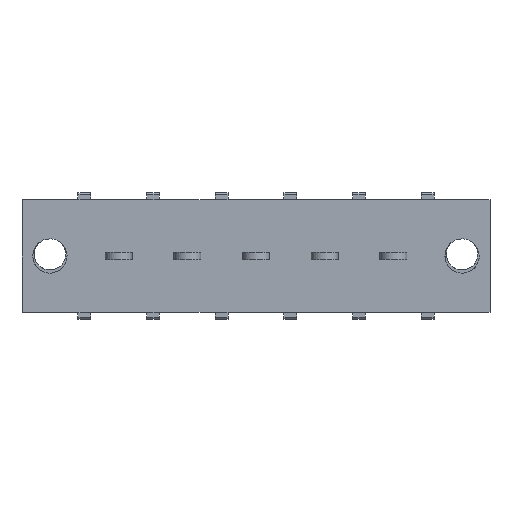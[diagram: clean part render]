
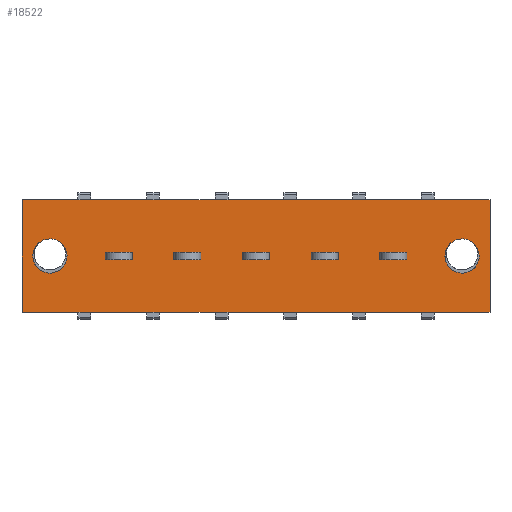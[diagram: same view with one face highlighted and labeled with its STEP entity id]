
A CAD part, front view. The second image highlights one B-rep face of the part: STEP entity #18522.
In plain terms, the highlighted planar face has unit normal (0, -1, 0).
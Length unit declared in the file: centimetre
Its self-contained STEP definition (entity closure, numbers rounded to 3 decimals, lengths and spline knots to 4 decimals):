
#807=PLANE('',#30235);
#1726=VECTOR('',#19942,1.);
#1921=VECTOR('',#20362,1.);
#1936=VECTOR('',#20381,1.);
#1950=VECTOR('',#20432,1.);
#1952=VECTOR('',#20435,1.);
#2001=VECTOR('',#20530,1.);
#2014=VECTOR('',#20546,1.);
#2015=VECTOR('',#20547,1.);
#2016=VECTOR('',#20548,1.);
#2017=VECTOR('',#20549,1.);
#2018=VECTOR('',#20550,1.);
#2019=VECTOR('',#20551,1.);
#2020=VECTOR('',#20552,1.);
#2021=VECTOR('',#20553,1.);
#2022=VECTOR('',#20554,1.);
#2023=VECTOR('',#20555,1.);
#2024=VECTOR('',#20556,1.);
#2025=VECTOR('',#20557,1.);
#2026=VECTOR('',#20558,1.);
#2027=VECTOR('',#20559,1.);
#2028=VECTOR('',#20560,1.);
#2029=VECTOR('',#20561,1.);
#2030=VECTOR('',#20562,1.);
#2031=VECTOR('',#20563,1.);
#3778=LINE('',#24699,#1726);
#3973=LINE('',#25314,#1921);
#3988=LINE('',#25347,#1936);
#4002=LINE('',#25396,#1950);
#4004=LINE('',#25400,#1952);
#4053=LINE('',#25521,#2001);
#4066=LINE('',#25548,#2014);
#4067=LINE('',#25551,#2015);
#4068=LINE('',#25553,#2016);
#4069=LINE('',#25555,#2017);
#4070=LINE('',#25556,#2018);
#4071=LINE('',#25559,#2019);
#4072=LINE('',#25561,#2020);
#4073=LINE('',#25563,#2021);
#4074=LINE('',#25564,#2022);
#4075=LINE('',#25567,#2023);
#4076=LINE('',#25569,#2024);
#4077=LINE('',#25571,#2025);
#4078=LINE('',#25572,#2026);
#4079=LINE('',#25575,#2027);
#4080=LINE('',#25577,#2028);
#4081=LINE('',#25579,#2029);
#4082=LINE('',#25580,#2030);
#4083=LINE('',#25582,#2031);
#5763=VERTEX_POINT('',#24698);
#5764=VERTEX_POINT('',#24700);
#5765=VERTEX_POINT('',#24704);
#5959=VERTEX_POINT('',#25315);
#5960=VERTEX_POINT('',#25316);
#5973=VERTEX_POINT('',#25348);
#5986=VERTEX_POINT('',#25397);
#6029=VERTEX_POINT('',#25522);
#6040=VERTEX_POINT('',#25547);
#6041=VERTEX_POINT('',#25549);
#6042=VERTEX_POINT('',#25550);
#6043=VERTEX_POINT('',#25552);
#6044=VERTEX_POINT('',#25554);
#6045=VERTEX_POINT('',#25557);
#6046=VERTEX_POINT('',#25558);
#6047=VERTEX_POINT('',#25560);
#6048=VERTEX_POINT('',#25562);
#6049=VERTEX_POINT('',#25565);
#6050=VERTEX_POINT('',#25566);
#6051=VERTEX_POINT('',#25568);
#6052=VERTEX_POINT('',#25570);
#6053=VERTEX_POINT('',#25573);
#6054=VERTEX_POINT('',#25574);
#6055=VERTEX_POINT('',#25576);
#6056=VERTEX_POINT('',#25578);
#6057=VERTEX_POINT('',#25581);
#7246=CIRCLE('',#30030,0.19);
#7320=CIRCLE('',#30236,0.19);
#8112=EDGE_CURVE('',#5764,#5763,#3778,.T.);
#8114=EDGE_CURVE('',#5765,#5765,#7246,.T.);
#8395=EDGE_CURVE('',#5959,#5960,#3973,.T.);
#8412=EDGE_CURVE('',#5973,#5959,#3988,.T.);
#8436=EDGE_CURVE('',#5986,#5973,#4002,.T.);
#8438=EDGE_CURVE('',#5960,#5986,#4004,.T.);
#8498=EDGE_CURVE('',#6029,#5763,#4053,.T.);
#8511=EDGE_CURVE('',#6040,#6040,#7320,.T.);
#8512=EDGE_CURVE('',#6041,#6042,#4066,.T.);
#8513=EDGE_CURVE('',#6042,#6043,#4067,.T.);
#8514=EDGE_CURVE('',#6043,#6044,#4068,.T.);
#8515=EDGE_CURVE('',#6044,#6041,#4069,.T.);
#8516=EDGE_CURVE('',#6045,#6046,#4070,.T.);
#8517=EDGE_CURVE('',#6046,#6047,#4071,.T.);
#8518=EDGE_CURVE('',#6047,#6048,#4072,.T.);
#8519=EDGE_CURVE('',#6048,#6045,#4073,.T.);
#8520=EDGE_CURVE('',#6049,#6050,#4074,.T.);
#8521=EDGE_CURVE('',#6050,#6051,#4075,.T.);
#8522=EDGE_CURVE('',#6051,#6052,#4076,.T.);
#8523=EDGE_CURVE('',#6052,#6049,#4077,.T.);
#8524=EDGE_CURVE('',#6053,#6054,#4078,.T.);
#8525=EDGE_CURVE('',#6054,#6055,#4079,.T.);
#8526=EDGE_CURVE('',#6055,#6056,#4080,.T.);
#8527=EDGE_CURVE('',#6056,#6053,#4081,.T.);
#8528=EDGE_CURVE('',#6057,#5764,#4082,.T.);
#8529=EDGE_CURVE('',#6057,#6029,#4083,.T.);
#12143=ORIENTED_EDGE('',*,*,#8114,.T.);
#12144=ORIENTED_EDGE('',*,*,#8511,.T.);
#12145=ORIENTED_EDGE('',*,*,#8412,.F.);
#12146=ORIENTED_EDGE('',*,*,#8436,.F.);
#12147=ORIENTED_EDGE('',*,*,#8438,.F.);
#12148=ORIENTED_EDGE('',*,*,#8395,.F.);
#12149=ORIENTED_EDGE('',*,*,#8512,.T.);
#12150=ORIENTED_EDGE('',*,*,#8513,.T.);
#12151=ORIENTED_EDGE('',*,*,#8514,.T.);
#12152=ORIENTED_EDGE('',*,*,#8515,.T.);
#12153=ORIENTED_EDGE('',*,*,#8516,.T.);
#12154=ORIENTED_EDGE('',*,*,#8517,.T.);
#12155=ORIENTED_EDGE('',*,*,#8518,.T.);
#12156=ORIENTED_EDGE('',*,*,#8519,.T.);
#12157=ORIENTED_EDGE('',*,*,#8520,.T.);
#12158=ORIENTED_EDGE('',*,*,#8521,.T.);
#12159=ORIENTED_EDGE('',*,*,#8522,.T.);
#12160=ORIENTED_EDGE('',*,*,#8523,.T.);
#12161=ORIENTED_EDGE('',*,*,#8524,.T.);
#12162=ORIENTED_EDGE('',*,*,#8525,.T.);
#12163=ORIENTED_EDGE('',*,*,#8526,.T.);
#12164=ORIENTED_EDGE('',*,*,#8527,.T.);
#12165=ORIENTED_EDGE('',*,*,#8528,.T.);
#12166=ORIENTED_EDGE('',*,*,#8112,.T.);
#12167=ORIENTED_EDGE('',*,*,#8498,.F.);
#12168=ORIENTED_EDGE('',*,*,#8529,.F.);
#16261=EDGE_LOOP('',(#12143));
#16262=EDGE_LOOP('',(#12144));
#16263=EDGE_LOOP('',(#12145,#12146,#12147,#12148));
#16264=EDGE_LOOP('',(#12149,#12150,#12151,#12152));
#16265=EDGE_LOOP('',(#12153,#12154,#12155,#12156));
#16266=EDGE_LOOP('',(#12157,#12158,#12159,#12160));
#16267=EDGE_LOOP('',(#12161,#12162,#12163,#12164));
#16268=EDGE_LOOP('',(#12165,#12166,#12167,#12168));
#17411=FACE_BOUND('',#16261,.T.);
#17412=FACE_BOUND('',#16262,.T.);
#17413=FACE_BOUND('',#16263,.T.);
#17414=FACE_BOUND('',#16264,.T.);
#17415=FACE_BOUND('',#16265,.T.);
#17416=FACE_BOUND('',#16266,.T.);
#17417=FACE_BOUND('',#16267,.T.);
#17418=FACE_BOUND('',#16268,.T.);
#18522=ADVANCED_FACE('',(#17411,#17412,#17413,#17414,#17415,#17416,#17417,
#17418),#807,.T.);
#19942=DIRECTION('',(0.,0.,1.));
#19946=DIRECTION('',(0.,1.,0.));
#19947=DIRECTION('',(0.19,0.,0.));
#20362=DIRECTION('',(0.,0.,1.));
#20381=DIRECTION('',(1.,0.,0.));
#20432=DIRECTION('',(0.,0.,-1.));
#20435=DIRECTION('',(-1.,0.,0.));
#20530=DIRECTION('',(1.,0.,0.));
#20543=DIRECTION('',(0.,-1.,0.));
#20544=DIRECTION('',(0.,1.,0.));
#20545=DIRECTION('',(0.19,0.,0.));
#20546=DIRECTION('',(-1.,0.,0.));
#20547=DIRECTION('',(0.,0.,1.));
#20548=DIRECTION('',(1.,0.,0.));
#20549=DIRECTION('',(0.,0.,-1.));
#20550=DIRECTION('',(-1.,0.,0.));
#20551=DIRECTION('',(0.,0.,1.));
#20552=DIRECTION('',(1.,0.,0.));
#20553=DIRECTION('',(0.,0.,-1.));
#20554=DIRECTION('',(-1.,0.,0.));
#20555=DIRECTION('',(0.,0.,1.));
#20556=DIRECTION('',(1.,0.,0.));
#20557=DIRECTION('',(0.,0.,-1.));
#20558=DIRECTION('',(-1.,0.,0.));
#20559=DIRECTION('',(0.,0.,1.));
#20560=DIRECTION('',(1.,0.,0.));
#20561=DIRECTION('',(0.,0.,-1.));
#20562=DIRECTION('',(1.,0.,0.));
#20563=DIRECTION('',(0.,0.,1.));
#24698=CARTESIAN_POINT('',(3.81,0.,0.625));
#24699=CARTESIAN_POINT('',(3.81,0.,-0.625));
#24700=CARTESIAN_POINT('',(3.81,0.,-0.625));
#24703=CARTESIAN_POINT('',(3.5,0.,0.));
#24704=CARTESIAN_POINT('',(3.31,0.,0.));
#25314=CARTESIAN_POINT('',(-0.185,0.,0.));
#25315=CARTESIAN_POINT('',(-0.185,0.,-0.04));
#25316=CARTESIAN_POINT('',(-0.185,0.,0.04));
#25347=CARTESIAN_POINT('',(-0.465,0.,-0.04));
#25348=CARTESIAN_POINT('',(-0.435,0.,-0.04));
#25396=CARTESIAN_POINT('',(-0.435,0.,0.));
#25397=CARTESIAN_POINT('',(-0.435,0.,0.04));
#25400=CARTESIAN_POINT('',(-0.465,0.,0.04));
#25521=CARTESIAN_POINT('',(-1.382,0.,0.625));
#25522=CARTESIAN_POINT('',(-1.382,0.,0.625));
#25545=CARTESIAN_POINT('',(0.,0.,0.));
#25546=CARTESIAN_POINT('',(-1.072,0.,0.));
#25547=CARTESIAN_POINT('',(-1.262,0.,0.));
#25548=CARTESIAN_POINT('',(1.369,0.,-0.04));
#25549=CARTESIAN_POINT('',(2.863,0.,-0.04));
#25550=CARTESIAN_POINT('',(2.613,0.,-0.04));
#25551=CARTESIAN_POINT('',(2.613,0.,0.));
#25552=CARTESIAN_POINT('',(2.613,0.,0.04));
#25553=CARTESIAN_POINT('',(1.369,0.,0.04));
#25554=CARTESIAN_POINT('',(2.863,0.,0.04));
#25555=CARTESIAN_POINT('',(2.863,0.,0.));
#25556=CARTESIAN_POINT('',(0.988,0.,-0.04));
#25557=CARTESIAN_POINT('',(2.101,0.,-0.04));
#25558=CARTESIAN_POINT('',(1.851,0.,-0.04));
#25559=CARTESIAN_POINT('',(1.851,0.,0.));
#25560=CARTESIAN_POINT('',(1.851,0.,0.04));
#25561=CARTESIAN_POINT('',(0.988,0.,0.04));
#25562=CARTESIAN_POINT('',(2.101,0.,0.04));
#25563=CARTESIAN_POINT('',(2.101,0.,0.));
#25564=CARTESIAN_POINT('',(0.607,0.,-0.04));
#25565=CARTESIAN_POINT('',(1.339,0.,-0.04));
#25566=CARTESIAN_POINT('',(1.089,0.,-0.04));
#25567=CARTESIAN_POINT('',(1.089,0.,0.));
#25568=CARTESIAN_POINT('',(1.089,0.,0.04));
#25569=CARTESIAN_POINT('',(0.607,0.,0.04));
#25570=CARTESIAN_POINT('',(1.339,0.,0.04));
#25571=CARTESIAN_POINT('',(1.339,0.,0.));
#25572=CARTESIAN_POINT('',(0.226,0.,-0.04));
#25573=CARTESIAN_POINT('',(0.577,0.,-0.04));
#25574=CARTESIAN_POINT('',(0.327,0.,-0.04));
#25575=CARTESIAN_POINT('',(0.327,0.,0.));
#25576=CARTESIAN_POINT('',(0.327,0.,0.04));
#25577=CARTESIAN_POINT('',(0.226,0.,0.04));
#25578=CARTESIAN_POINT('',(0.577,0.,0.04));
#25579=CARTESIAN_POINT('',(0.577,0.,0.));
#25580=CARTESIAN_POINT('',(-1.382,0.,-0.625));
#25581=CARTESIAN_POINT('',(-1.382,0.,-0.625));
#25582=CARTESIAN_POINT('',(-1.382,0.,-0.625));
#30030=AXIS2_PLACEMENT_3D('',#24703,#19946,#19947);
#30235=AXIS2_PLACEMENT_3D('',#25545,#20543,$);
#30236=AXIS2_PLACEMENT_3D('',#25546,#20544,#20545);
